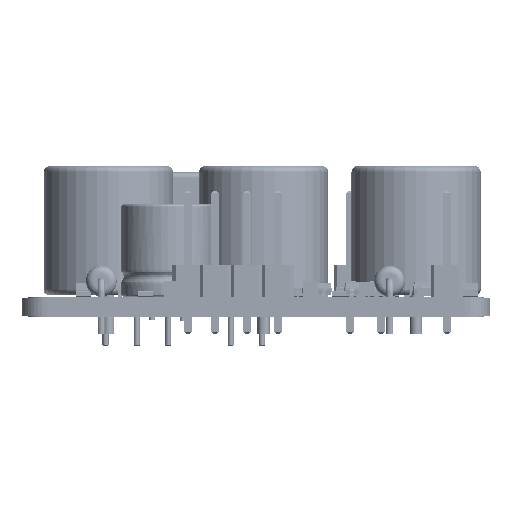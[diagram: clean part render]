
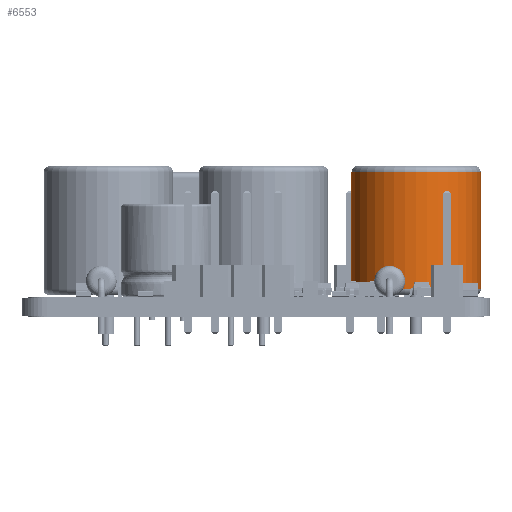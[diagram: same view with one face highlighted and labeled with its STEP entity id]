
A CAD part, left-side view. The second image highlights one B-rep face of the part: STEP entity #6553.
In plain terms, the highlighted cylindrical face has radius 5.25 mm (diameter 10.5 mm), a full revolution.
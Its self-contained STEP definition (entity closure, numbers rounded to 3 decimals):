
#6553 = ADVANCED_FACE('',(#6554),#6581,.T.);
#6554 = FACE_BOUND('',#6555,.T.);
#6555 = EDGE_LOOP('',(#6556,#6565,#6573,#6580));
#6556 = ORIENTED_EDGE('',*,*,#6557,.T.);
#6557 = EDGE_CURVE('',#6558,#6558,#6560,.T.);
#6558 = VERTEX_POINT('',#6559);
#6559 = CARTESIAN_POINT('',(7.75,0.,0.6));
#6560 = CIRCLE('',#6561,5.25);
#6561 = AXIS2_PLACEMENT_3D('',#6562,#6563,#6564);
#6562 = CARTESIAN_POINT('',(2.5,0.,0.6));
#6563 = DIRECTION('',(0.,0.,1.));
#6564 = DIRECTION('',(1.,0.,-0.));
#6565 = ORIENTED_EDGE('',*,*,#6566,.T.);
#6566 = EDGE_CURVE('',#6558,#6567,#6569,.T.);
#6567 = VERTEX_POINT('',#6568);
#6568 = CARTESIAN_POINT('',(7.75,0.,10.1));
#6569 = LINE('',#6570,#6571);
#6570 = CARTESIAN_POINT('',(7.75,0.,0.1));
#6571 = VECTOR('',#6572,1.);
#6572 = DIRECTION('',(0.,0.,1.));
#6573 = ORIENTED_EDGE('',*,*,#6574,.F.);
#6574 = EDGE_CURVE('',#6567,#6567,#6575,.T.);
#6575 = CIRCLE('',#6576,5.25);
#6576 = AXIS2_PLACEMENT_3D('',#6577,#6578,#6579);
#6577 = CARTESIAN_POINT('',(2.5,0.,10.1));
#6578 = DIRECTION('',(0.,0.,1.));
#6579 = DIRECTION('',(1.,0.,-0.));
#6580 = ORIENTED_EDGE('',*,*,#6566,.F.);
#6581 = CYLINDRICAL_SURFACE('',#6582,5.25);
#6582 = AXIS2_PLACEMENT_3D('',#6583,#6584,#6585);
#6583 = CARTESIAN_POINT('',(2.5,0.,0.1));
#6584 = DIRECTION('',(-0.,-0.,-1.));
#6585 = DIRECTION('',(1.,0.,0.));
